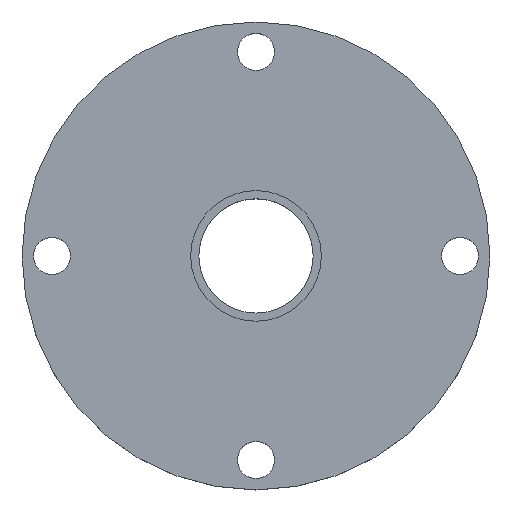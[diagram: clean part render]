
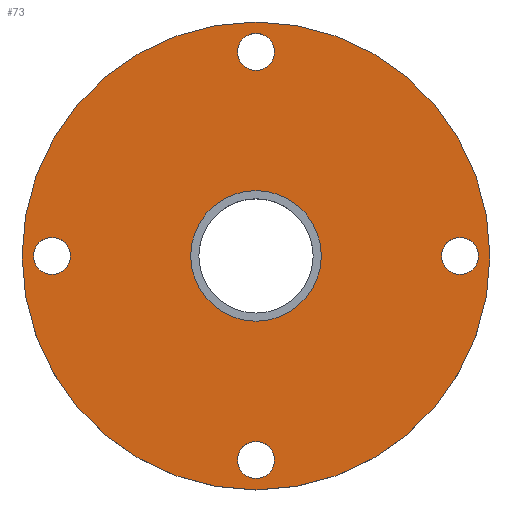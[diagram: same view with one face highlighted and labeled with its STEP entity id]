
A CAD part, top view. The second image highlights one B-rep face of the part: STEP entity #73.
In plain terms, the highlighted planar face has unit normal (0, 0, 1).
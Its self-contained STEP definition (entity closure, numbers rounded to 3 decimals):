
#42=PLANE('',#497);
#48=FACE_BOUND('',#139,.T.);
#49=FACE_BOUND('',#140,.T.);
#50=FACE_BOUND('',#141,.T.);
#51=FACE_BOUND('',#142,.T.);
#52=FACE_BOUND('',#143,.T.);
#53=FACE_BOUND('',#144,.T.);
#73=ADVANCED_FACE('NONE',(#48,#49,#50,#51,#52,#53),#42,.T.);
#139=EDGE_LOOP('',(#234,#235));
#140=EDGE_LOOP('',(#236,#237));
#141=EDGE_LOOP('',(#238,#239));
#142=EDGE_LOOP('',(#240,#241));
#143=EDGE_LOOP('',(#242,#243));
#144=EDGE_LOOP('',(#244,#245));
#174=CIRCLE('',#475,1.7);
#176=CIRCLE('',#478,1.7);
#178=CIRCLE('',#481,1.7);
#180=CIRCLE('',#484,1.7);
#182=CIRCLE('',#487,6.);
#184=CIRCLE('',#490,6.);
#185=CIRCLE('',#491,21.5);
#186=CIRCLE('',#492,21.5);
#187=CIRCLE('',#493,1.7);
#188=CIRCLE('',#494,1.7);
#189=CIRCLE('',#495,1.7);
#190=CIRCLE('',#496,1.7);
#234=ORIENTED_EDGE('',*,*,#394,.F.);
#235=ORIENTED_EDGE('',*,*,#391,.F.);
#236=ORIENTED_EDGE('',*,*,#395,.T.);
#237=ORIENTED_EDGE('',*,*,#396,.T.);
#238=ORIENTED_EDGE('',*,*,#397,.F.);
#239=ORIENTED_EDGE('',*,*,#387,.F.);
#240=ORIENTED_EDGE('',*,*,#398,.F.);
#241=ORIENTED_EDGE('',*,*,#383,.F.);
#242=ORIENTED_EDGE('',*,*,#399,.F.);
#243=ORIENTED_EDGE('',*,*,#379,.F.);
#244=ORIENTED_EDGE('',*,*,#400,.F.);
#245=ORIENTED_EDGE('',*,*,#375,.F.);
#335=VERTEX_POINT('',#698);
#336=VERTEX_POINT('',#700);
#339=VERTEX_POINT('',#707);
#340=VERTEX_POINT('',#709);
#343=VERTEX_POINT('',#716);
#344=VERTEX_POINT('',#718);
#347=VERTEX_POINT('',#725);
#348=VERTEX_POINT('',#727);
#351=VERTEX_POINT('',#734);
#352=VERTEX_POINT('',#736);
#354=VERTEX_POINT('',#743);
#355=VERTEX_POINT('',#744);
#375=EDGE_CURVE('NONE',#335,#336,#174,.T.);
#379=EDGE_CURVE('NONE',#339,#340,#176,.T.);
#383=EDGE_CURVE('NONE',#343,#344,#178,.T.);
#387=EDGE_CURVE('NONE',#347,#348,#180,.T.);
#391=EDGE_CURVE('NONE',#351,#352,#182,.T.);
#394=EDGE_CURVE('NONE',#352,#351,#184,.T.);
#395=EDGE_CURVE('NONE',#354,#355,#185,.T.);
#396=EDGE_CURVE('NONE',#355,#354,#186,.T.);
#397=EDGE_CURVE('NONE',#348,#347,#187,.T.);
#398=EDGE_CURVE('NONE',#344,#343,#188,.T.);
#399=EDGE_CURVE('NONE',#340,#339,#189,.T.);
#400=EDGE_CURVE('NONE',#336,#335,#190,.T.);
#475=AXIS2_PLACEMENT_3D('',#699,#544,#545);
#478=AXIS2_PLACEMENT_3D('',#708,#552,#553);
#481=AXIS2_PLACEMENT_3D('',#717,#560,#561);
#484=AXIS2_PLACEMENT_3D('',#726,#568,#569);
#487=AXIS2_PLACEMENT_3D('',#735,#576,#577);
#490=AXIS2_PLACEMENT_3D('',#741,#583,#584);
#491=AXIS2_PLACEMENT_3D('',#742,#585,#586);
#492=AXIS2_PLACEMENT_3D('',#745,#587,#588);
#493=AXIS2_PLACEMENT_3D('',#746,#589,#590);
#494=AXIS2_PLACEMENT_3D('',#747,#591,#592);
#495=AXIS2_PLACEMENT_3D('',#748,#593,#594);
#496=AXIS2_PLACEMENT_3D('',#749,#595,#596);
#497=AXIS2_PLACEMENT_3D('',#750,#597,#598);
#544=DIRECTION('',(0.,0.,1.));
#545=DIRECTION('',(1.,0.,0.));
#552=DIRECTION('',(0.,0.,1.));
#553=DIRECTION('',(1.,0.,0.));
#560=DIRECTION('',(0.,0.,1.));
#561=DIRECTION('',(1.,0.,0.));
#568=DIRECTION('',(0.,0.,1.));
#569=DIRECTION('',(1.,0.,0.));
#576=DIRECTION('',(0.,0.,1.));
#577=DIRECTION('',(1.,0.,0.));
#583=DIRECTION('',(0.,0.,1.));
#584=DIRECTION('',(1.,0.,0.));
#585=DIRECTION('',(0.,0.,1.));
#586=DIRECTION('',(1.,0.,0.));
#587=DIRECTION('',(0.,0.,1.));
#588=DIRECTION('',(1.,0.,0.));
#589=DIRECTION('',(0.,0.,1.));
#590=DIRECTION('',(1.,0.,0.));
#591=DIRECTION('',(0.,0.,1.));
#592=DIRECTION('',(1.,0.,0.));
#593=DIRECTION('',(0.,0.,1.));
#594=DIRECTION('',(1.,0.,0.));
#595=DIRECTION('',(0.,0.,1.));
#596=DIRECTION('',(1.,0.,0.));
#597=DIRECTION('',(0.,0.,1.));
#598=DIRECTION('',(1.,0.,0.));
#698=CARTESIAN_POINT('',(-17.05,0.,-2.));
#699=CARTESIAN_POINT('',(-18.75,0.,-2.));
#700=CARTESIAN_POINT('',(-20.45,0.,-2.));
#707=CARTESIAN_POINT('',(1.7,-18.75,-2.));
#708=CARTESIAN_POINT('',(0.,-18.75,-2.));
#709=CARTESIAN_POINT('',(-1.7,-18.75,-2.));
#716=CARTESIAN_POINT('',(20.45,0.,-2.));
#717=CARTESIAN_POINT('',(18.75,0.,-2.));
#718=CARTESIAN_POINT('',(17.05,0.,-2.));
#725=CARTESIAN_POINT('',(1.7,18.75,-2.));
#726=CARTESIAN_POINT('',(0.,18.75,-2.));
#727=CARTESIAN_POINT('',(-1.7,18.75,-2.));
#734=CARTESIAN_POINT('',(-6.,0.,-2.));
#735=CARTESIAN_POINT('',(0.,0.,-2.));
#736=CARTESIAN_POINT('',(6.,0.,-2.));
#741=CARTESIAN_POINT('',(0.,0.,-2.));
#742=CARTESIAN_POINT('',(0.,0.,-2.));
#743=CARTESIAN_POINT('',(21.5,0.,-2.));
#744=CARTESIAN_POINT('',(-21.5,0.,-2.));
#745=CARTESIAN_POINT('',(0.,0.,-2.));
#746=CARTESIAN_POINT('',(0.,18.75,-2.));
#747=CARTESIAN_POINT('',(18.75,0.,-2.));
#748=CARTESIAN_POINT('',(0.,-18.75,-2.));
#749=CARTESIAN_POINT('',(-18.75,0.,-2.));
#750=CARTESIAN_POINT('',(0.,21.5,-2.));
